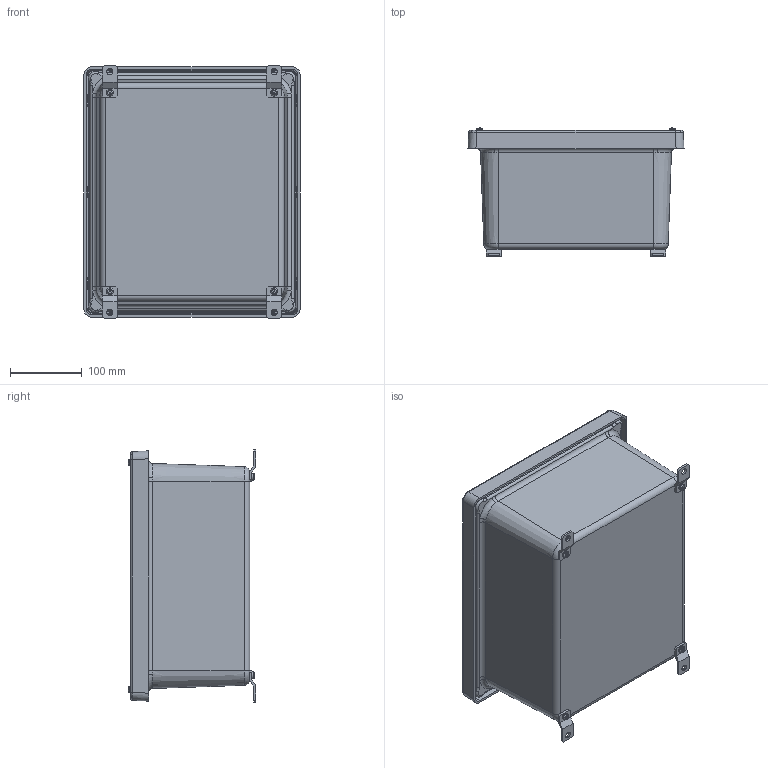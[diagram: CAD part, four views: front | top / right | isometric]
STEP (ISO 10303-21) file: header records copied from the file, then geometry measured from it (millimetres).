
FILE_DESCRIPTION (( 'STEP AP203' ), '1' );
FILE_NAME ('PJ12106.step', '2017-08-23T21:23:05', ( '' ), ( '' ), 'SwSTEP 2.0', 'SolidWorks 2017', '' );
FILE_SCHEMA (( 'CONFIG_CONTROL_DESIGN' ));
Length unit declared in the file: inch
Products named in the file (17): W120C_COVER (4S); W1206BI12; WG120CS; CMSO316; WFOOT316; W1206B; 55-1032516_PreviewCfg; W120C_GASKET PROFILE; 70-007ORING; PJ12106; 70-60250; 70-1032342316_70-1032342316; WG120C_COVER (4S); 70-60823PC-1; 55-1032716316_SL-PHMS 0.19-32x0.3125x0.3125-N; AM1206_default; WG120C-GASKET
Assembly tree (39 placements, depth 6):
  PJ12106
    AM1206_default
      W1206BI12
        W1206B
        70-60250  x12
      CMSO316  x4
        70-1032342316_70-1032342316
        70-007ORING
      WG120CS
        WG120C_COVER (4S)
          W120C_COVER (4S)
          WG120C-GASKET
            W120C_GASKET PROFILE
      WFOOT316  x4
      55-1032716316_SL-PHMS 0.19-32x0.3125x0.3125-N  x4
      55-1032516_PreviewCfg  x4
      70-60823PC-1
Bounding box: 300.99 x 177.88 x 351.13 mm (x, y, z)
Volume: 1772905.4 mm3; surface area: 959439.8 mm2
Topology: 36 solids, 36 shells, 2979 faces, 7822 edges, 5000 vertices
Faces by surface type: plane 872, cylinder 842, cone 642, bspline 411, torus 188, sphere 24
Entity records: 64183 total; most frequent: CARTESIAN_POINT 27226, ORIENTED_EDGE 7542, DIRECTION 6777, EDGE_CURVE 3771, AXIS2_PLACEMENT_3D 2484, VERTEX_POINT 2382, VECTOR 1809, LINE 1809
